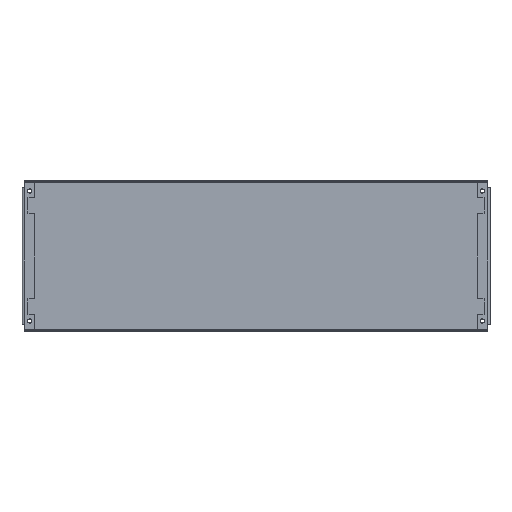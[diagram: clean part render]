
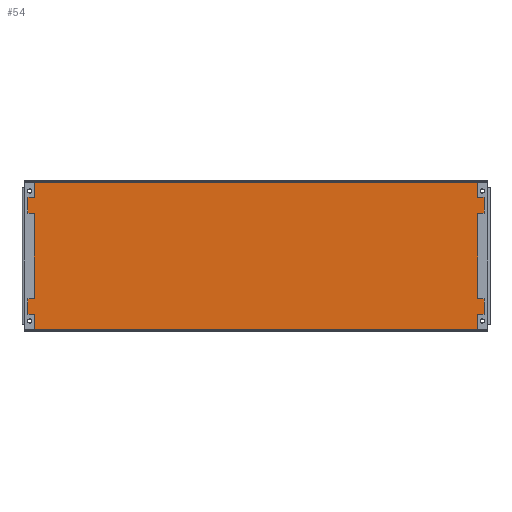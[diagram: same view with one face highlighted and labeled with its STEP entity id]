
A CAD part, top view. The second image highlights one B-rep face of the part: STEP entity #54.
In plain terms, the highlighted planar face has unit normal (0, 0, 1).
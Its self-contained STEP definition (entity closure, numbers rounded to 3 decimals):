
#54=ADVANCED_FACE('',(#186,#188,#190,#192,#194),#196,.T.);
#186=FACE_BOUND('',#187,.T.);
#187=EDGE_LOOP('',(#1129,#1130,#1131,#1132,#1133,#1134,#1135,#1136));
#188=FACE_BOUND('',#189,.T.);
#189=EDGE_LOOP('',(#1137));
#190=FACE_BOUND('',#191,.T.);
#191=EDGE_LOOP('',(#1138));
#192=FACE_BOUND('',#193,.T.);
#193=EDGE_LOOP('',(#1139));
#194=FACE_BOUND('',#195,.T.);
#195=EDGE_LOOP('',(#1140));
#196=PLANE('',#197);
#197=AXIS2_PLACEMENT_3D('',#198,#199,#200);
#198=CARTESIAN_POINT('',(0.,0.,2.));
#199=DIRECTION('',(0.,0.,1.));
#200=DIRECTION('',(1.,0.,0.));
#1129=ORIENTED_EDGE('',*,*,#1689,.T.);
#1130=ORIENTED_EDGE('',*,*,#1690,.T.);
#1131=ORIENTED_EDGE('',*,*,#1691,.T.);
#1132=ORIENTED_EDGE('',*,*,#1692,.T.);
#1133=ORIENTED_EDGE('',*,*,#1693,.T.);
#1134=ORIENTED_EDGE('',*,*,#1694,.T.);
#1135=ORIENTED_EDGE('',*,*,#1695,.T.);
#1136=ORIENTED_EDGE('',*,*,#1696,.T.);
#1137=ORIENTED_EDGE('',*,*,#1697,.T.);
#1138=ORIENTED_EDGE('',*,*,#1698,.T.);
#1139=ORIENTED_EDGE('',*,*,#1699,.T.);
#1140=ORIENTED_EDGE('',*,*,#1700,.T.);
#1689=EDGE_CURVE('',#1981,#1982,#1983,.F.);
#1690=EDGE_CURVE('',#1982,#1984,#1985,.T.);
#1691=EDGE_CURVE('',#1984,#1986,#1987,.F.);
#1692=EDGE_CURVE('',#1986,#1988,#1989,.T.);
#1693=EDGE_CURVE('',#1988,#1990,#1991,.F.);
#1694=EDGE_CURVE('',#1990,#1992,#1993,.T.);
#1695=EDGE_CURVE('',#1992,#1994,#1995,.F.);
#1696=EDGE_CURVE('',#1994,#1981,#1996,.T.);
#1697=EDGE_CURVE('',#1997,#1997,#1998,.T.);
#1698=EDGE_CURVE('',#1999,#1999,#2000,.T.);
#1699=EDGE_CURVE('',#2001,#2001,#2002,.T.);
#1700=EDGE_CURVE('',#2003,#2003,#2004,.T.);
#1981=VERTEX_POINT('',#2473);
#1982=VERTEX_POINT('',#2474);
#1983=LINE('',#2475,#2476);
#1984=VERTEX_POINT('',#2478);
#1985=LINE('',#2479,#2480);
#1986=VERTEX_POINT('',#2482);
#1987=LINE('',#2483,#2484);
#1988=VERTEX_POINT('',#2486);
#1989=LINE('',#2487,#2488);
#1990=VERTEX_POINT('',#2490);
#1991=LINE('',#2491,#2492);
#1992=VERTEX_POINT('',#2494);
#1993=LINE('',#2495,#2496);
#1994=VERTEX_POINT('',#2498);
#1995=LINE('',#2499,#2500);
#1996=LINE('',#2502,#2503);
#1997=VERTEX_POINT('',#2505);
#1998=CIRCLE('',#2506,8.5);
#1999=VERTEX_POINT('',#2510);
#2000=CIRCLE('',#2511,8.5);
#2001=VERTEX_POINT('',#2515);
#2002=CIRCLE('',#2516,8.5);
#2003=VERTEX_POINT('',#2520);
#2004=CIRCLE('',#2521,8.5);
#2473=CARTESIAN_POINT('',(4.,15.,2.));
#2474=CARTESIAN_POINT('',(4.,4.,2.));
#2475=CARTESIAN_POINT('',(4.,4.,2.));
#2476=VECTOR('',#2477,1.);
#2477=DIRECTION('',(0.,1.,0.));
#2478=CARTESIAN_POINT('',(896.,4.,2.));
#2479=CARTESIAN_POINT('',(4.,4.,2.));
#2480=VECTOR('',#2481,1.);
#2481=DIRECTION('',(1.,0.,0.));
#2482=CARTESIAN_POINT('',(896.,15.,2.));
#2483=CARTESIAN_POINT('',(896.,15.,2.));
#2484=VECTOR('',#2485,1.);
#2485=DIRECTION('',(0.,-1.,0.));
#2486=CARTESIAN_POINT('',(896.,277.,2.));
#2487=CARTESIAN_POINT('',(896.,15.,2.));
#2488=VECTOR('',#2489,1.);
#2489=DIRECTION('',(0.,1.,0.));
#2490=CARTESIAN_POINT('',(896.,288.,2.));
#2491=CARTESIAN_POINT('',(896.,288.,2.));
#2492=VECTOR('',#2493,1.);
#2493=DIRECTION('',(0.,-1.,0.));
#2494=CARTESIAN_POINT('',(4.,288.,2.));
#2495=CARTESIAN_POINT('',(896.,288.,2.));
#2496=VECTOR('',#2497,1.);
#2497=DIRECTION('',(-1.,0.,0.));
#2498=CARTESIAN_POINT('',(4.,277.,2.));
#2499=CARTESIAN_POINT('',(4.,277.,2.));
#2500=VECTOR('',#2501,1.);
#2501=DIRECTION('',(0.,1.,0.));
#2502=CARTESIAN_POINT('',(4.,277.,2.));
#2503=VECTOR('',#2504,1.);
#2504=DIRECTION('',(0.,-1.,0.));
#2505=CARTESIAN_POINT('',(23.5,21.,2.));
#2506=AXIS2_PLACEMENT_3D('',#2507,#2508,#2509);
#2507=CARTESIAN_POINT('',(15.,21.,2.));
#2508=DIRECTION('',(0.,0.,-1.));
#2509=DIRECTION('',(1.,0.,0.));
#2510=CARTESIAN_POINT('',(893.5,21.,2.));
#2511=AXIS2_PLACEMENT_3D('',#2512,#2513,#2514);
#2512=CARTESIAN_POINT('',(885.,21.,2.));
#2513=DIRECTION('',(0.,0.,-1.));
#2514=DIRECTION('',(1.,0.,0.));
#2515=CARTESIAN_POINT('',(23.5,271.,2.));
#2516=AXIS2_PLACEMENT_3D('',#2517,#2518,#2519);
#2517=CARTESIAN_POINT('',(15.,271.,2.));
#2518=DIRECTION('',(0.,0.,-1.));
#2519=DIRECTION('',(1.,0.,0.));
#2520=CARTESIAN_POINT('',(893.5,271.,2.));
#2521=AXIS2_PLACEMENT_3D('',#2522,#2523,#2524);
#2522=CARTESIAN_POINT('',(885.,271.,2.));
#2523=DIRECTION('',(0.,0.,-1.));
#2524=DIRECTION('',(1.,0.,0.));
